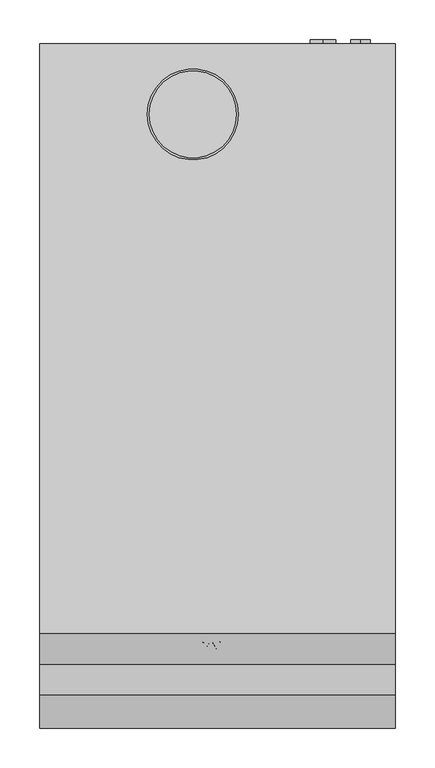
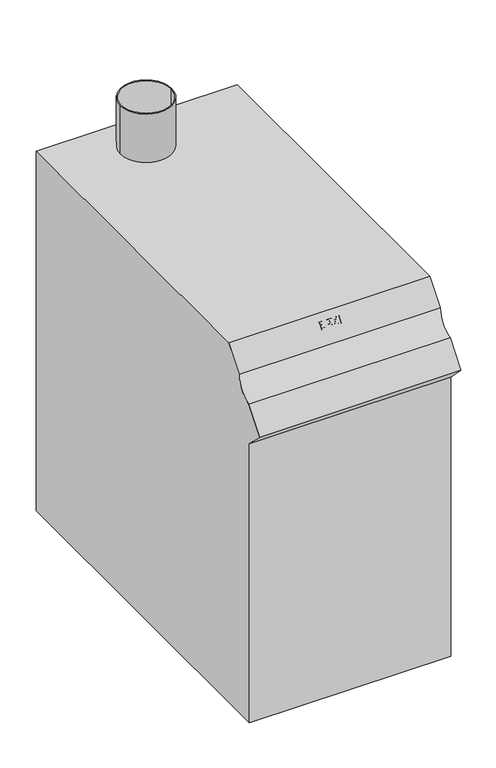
"""IFC4 building model written with IfcOpenShell, lengths in millimetres: proxy geometry, BAXI_ГазовыйКотел_Power_HT_45-150 : BAXI_Газовый котел_Power_HT_1.1000."""

from ifc_helpers import new_model, si_unit, point, frame, frame_2d, origin, place, context, project, spatial, polyline, circle_curve, trimmed, segment, composite_curve, outline, extrude, source, transform, mapped, element, save


def mechanical_equipment_7dd2ec9c(model_context):
    return source(origin(), model_context, "Body", "SweptSolid", [
        extrude(outline(composite_curve([segment(polyline([(-5.0, 850.0), (-5.0, 0.0), (-831.0, 0.0), (-831.0, 660.0), (-871.0, 700.0), (-829.2660851, 752.0109492)]), True, "CONTINUOUS"), segment(trimmed(circle_curve(frame_2d((-841.6738547, 801.4105648)), 50.9340237), [point((-829.2660851, 752.0109492))], [point((-790.7593668, 800.0))], True, "CARTESIAN"), True, "CONTINUOUS"), segment(polyline([(-790.7593668, 800.0), (-750.6390502, 850.0), (-5.0, 850.0)]), True, "CONTINUOUS")], self_intersect=False)), frame((-225.0, 0.0, 0.0), z_axis=(1.0, 0.0, 0.0), x_axis=(0.0, 1.0, 0.0)), (0.0, 0.0, 1.0), 450.0),
        extrude(outline(composite_curve([segment(trimmed(circle_curve(frame_2d((346.0, 133.5)), 16.0), [point((330.0, 133.5))], [point((362.0, 133.5))], False, "CARTESIAN"), True, "CONTINUOUS"), segment(trimmed(circle_curve(frame_2d((346.0, 133.5)), 16.0), [point((362.0, 133.5))], [point((330.0, 133.5))], False, "CARTESIAN"), True, "CONTINUOUS")], self_intersect=False)), frame((0.0, -94.5, 0.0), z_axis=(0.0, 1.0, 0.0), x_axis=(0.0, 0.0, 1.0)), (0.0, 0.0, 1.0), 94.5),
        extrude(outline(composite_curve([segment(trimmed(circle_curve(frame_2d((186.0, 133.5)), 16.0), [point((170.0, 133.5))], [point((202.0, 133.5))], False, "CARTESIAN"), True, "CONTINUOUS"), segment(trimmed(circle_curve(frame_2d((186.0, 133.5)), 16.0), [point((202.0, 133.5))], [point((170.0, 133.5))], False, "CARTESIAN"), True, "CONTINUOUS")], self_intersect=False)), frame((0.0, -94.5, 0.0), z_axis=(0.0, 1.0, 0.0), x_axis=(0.0, 0.0, 1.0)), (0.0, 0.0, 1.0), 94.5),
        extrude(outline(composite_curve([segment(trimmed(circle_curve(frame_2d((476.0, 181.0)), 12.5), [point((463.5, 181.0))], [point((488.5, 181.0))], False, "CARTESIAN"), True, "CONTINUOUS"), segment(trimmed(circle_curve(frame_2d((476.0, 181.0)), 12.5), [point((488.5, 181.0))], [point((463.5, 181.0))], False, "CARTESIAN"), True, "CONTINUOUS")], self_intersect=False)), frame((0.0, -94.5, 0.0), z_axis=(0.0, 1.0, 0.0), x_axis=(0.0, 0.0, 1.0)), (0.0, 0.0, 1.0), 94.5),
        extrude(outline(composite_curve([segment(trimmed(circle_curve(frame_2d((65.3668634, 133.5)), 10.0), [point((55.3668634, 133.5))], [point((75.3668634, 133.5))], False, "CARTESIAN"), True, "CONTINUOUS"), segment(trimmed(circle_curve(frame_2d((65.3668634, 133.5)), 10.0), [point((75.3668634, 133.5))], [point((55.3668634, 133.5))], False, "CARTESIAN"), True, "CONTINUOUS")], self_intersect=False)), frame((0.0, -94.5, 0.0), z_axis=(0.0, 1.0, 0.0), x_axis=(0.0, 0.0, 1.0)), (0.0, 0.0, 1.0), 94.5),
        extrude(outline(composite_curve([segment(trimmed(circle_curve(frame_2d((-31.0, -94.5)), 57.5), [point((-88.5, -94.5))], [point((26.5, -94.5))], False, "CARTESIAN"), True, "CONTINUOUS"), segment(trimmed(circle_curve(frame_2d((-31.0, -94.5)), 57.5), [point((26.5, -94.5))], [point((-88.5, -94.5))], False, "CARTESIAN"), True, "CONTINUOUS")], self_intersect=False), holes=[composite_curve([segment(trimmed(circle_curve(frame_2d((-31.0, -94.5)), 55.0), [point((-86.0, -94.5))], [point((24.0, -94.5))], True, "CARTESIAN"), True, "CONTINUOUS"), segment(trimmed(circle_curve(frame_2d((-31.0, -94.5)), 55.0), [point((24.0, -94.5))], [point((-86.0, -94.5))], True, "CARTESIAN"), True, "CONTINUOUS")], self_intersect=False)]), frame((0.0, 0.0, 850.0), z_axis=(0.0, 0.0, 1.0), x_axis=(1.0, 0.0, 0.0)), (0.0, 0.0, 1.0), 115.0),
        extrude(outline(polyline([(0.0, 0.0), (6.281731, 0.0), (9.0620138, -0.1518243), (10.7017164, -0.7875886), (11.9068219, -2.0742997), (12.3888641, -3.8753157), (11.8138295, -5.856623), (10.2519369, -7.211655), (12.1952881, -8.5932563), (12.8747019, -10.889599), (12.3869663, -12.9107602), (11.054708, -14.4783463), (8.972817, -15.2014096), (5.2303477, -15.303891), (0.0, -15.303891), (0.0, 0.0)]), holes=[polyline([(2.9150268, -2.6721079), (2.9150268, -6.0729726), (5.1392531, -6.0729726), (7.6063982, -6.0236297), (4.8659693, -2.6721079), (2.9150268, -2.6721079)]), polyline([(2.9150268, -8.7450806), (2.9150268, -12.631783), (5.9970604, -12.631783), (8.2820164, -12.5406884), (5.6061128, -8.7450806), (2.9150268, -8.7450806)])]), frame((-29.1315163, -757.4782546, 833.487354), z_axis=(0.0, -0.7799524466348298, 0.6258387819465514), x_axis=(1.0, 0.0, 0.0)), (0.0, 0.0, 1.0), 5.0),
        extrude(outline(polyline([(0.0, 0.0), (3.0630555, 0.0), (4.2624676, -3.4008647), (10.0431784, -3.4008647), (11.2274081, 0.0), (14.3322153, 0.0), (8.7450805, -15.303891), (5.6402733, -15.303891), (0.0, 0.0)]), holes=[polyline([(5.1961872, -6.0729726), (7.1661077, -11.6601074), (9.1094589, -6.0729726), (5.1961872, -6.0729726)])]), frame((-0.9529234, -767.0560231, 821.5510468), z_axis=(0.0, -0.7799524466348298, 0.6258387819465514), x_axis=(-1.0, 0.0, 0.0)), (0.0, 0.0, 1.0), 5.0),
        extrude(outline(polyline([(0.0, 0.0), (9.5718736, 0.0), (13.0938513, 7.9370131), (14.9522751, 5.079771), (12.6996984, 0.0014133), (18.2552198, 0.0016435), (20.1136436, -2.8555986), (11.4302974, -2.8572421), (7.549588, -11.6071484), (5.6911642, -8.7499063), (8.3056546, -2.8565859), (1.8584238, -2.8572421), (0.0, 0.0)])), frame((-0.8314639, -767.0560231, 821.5510468), z_axis=(0.0, -0.7799524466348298, 0.6258387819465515), x_axis=(0.5452392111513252, 0.5246284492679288, 0.6538189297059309)), (0.0, 0.0, 1.0), 5.0),
        extrude(outline(polyline([(0.0, -2.9150269), (0.0, 0.0), (5.0, 0.0), (5.0, -2.9150269), (0.0, -2.9150269)])), frame((17.5089134, -767.0560231, 821.5510468), z_axis=(0.0, 0.625838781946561, 0.7799524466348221), x_axis=(0.0, -0.7799524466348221, 0.625838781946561)), (0.0, 0.0, 1.0), 15.303891),
    ])


if __name__ == "__main__":
    model = new_model("IFC4")
    model_context = context("Model", 3, world=origin())
    ifc_project = project(units=[si_unit("LENGTHUNIT", "METRE", prefix="MILLI")], contexts=[model_context])
    site = spatial("IfcSite", under=ifc_project)
    building = spatial("IfcBuilding", under=site)
    placement = place(None, origin())
    mechanical_equipment_shape = mechanical_equipment_7dd2ec9c(model_context)
    element("IfcBuildingElementProxy", 1, Name="BAXI_ГазовыйКотел_Power_HT_45-150 : BAXI_Газовый котел_Power_HT_1.1000", ObjectType="BAXI_ГазовыйКотел_Power_HT_45-150 : BAXI_Газовый котел_Power_HT_1.1000", at=placement, inside=building, context=model_context, shape_type="MappedRepresentation", body=[
        mapped(mechanical_equipment_shape, transform((0.0, 0.0, 0.0), x_axis=(1.0, 0.0, 0.0), y_axis=(0.0, 1.0, 0.0), z_axis=(0.0, 0.0, 1.0))),
    ])
    save(model, "model.ifc")
